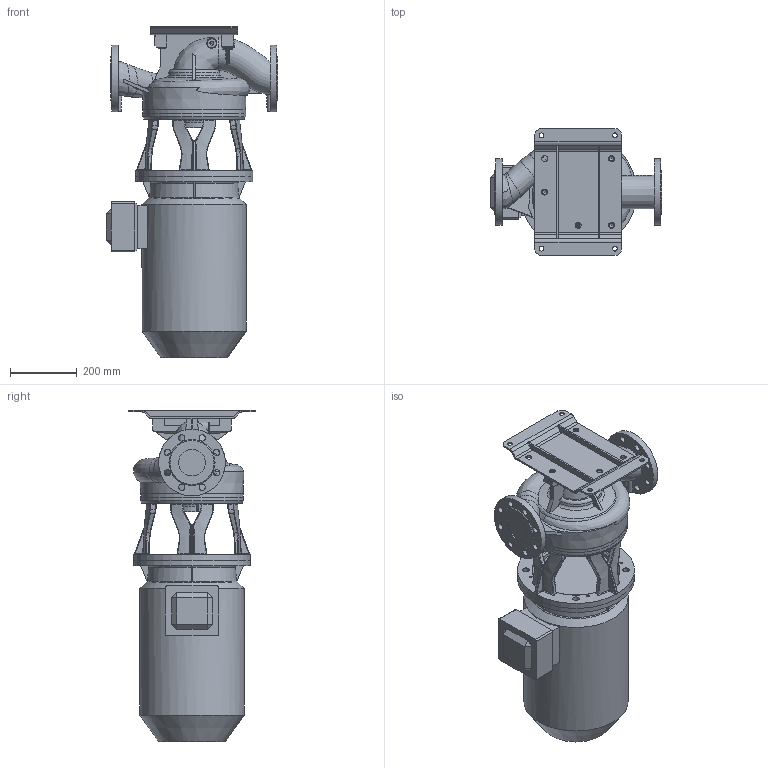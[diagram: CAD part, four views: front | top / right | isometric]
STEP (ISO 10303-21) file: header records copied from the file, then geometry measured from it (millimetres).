
FILE_DESCRIPTION (( 'STEP AP203' ), '1' );
FILE_NAME ('KI80-220_2_15kW_1.STEP', '2026-07-22T05:21:13', ( '' ), ( '' ), 'SwSTEP 2.0', 'SolidWorks 2023', '' );
FILE_SCHEMA (( 'CONFIG_CONTROL_DESIGN' ));
Length unit declared in the file: millimetre
Products named in the file (11): 220610; 220532; KI80-220_2_15kW_1; 211488; 230181; 220531; 220609; 440186_solid; 230180; 230179; 230574
Assembly tree (11 placements, depth 3):
  KI80-220_2_15kW_1
    220610
      220609
    230574
      211488
    220532
      220531
    230181
      230179
      230180  x2
    440186_solid
Bounding box: 513 x 380.18 x 993.45 mm (x, y, z)
Volume: 58424926.1 mm3; surface area: 2162428.7 mm2
Topology: 7 solids, 7 shells, 801 faces, 2067 edges, 1264 vertices
Faces by surface type: bspline 272, plane 235, cylinder 185, cone 56, torus 51, sphere 2
Full cylindrical faces by diameter (mm): 6 x2, 6.8 x4, 10 x4, 10.2 x8, 11.445 x1, 11.8 x3, 14 x19, 14.5 x4, 18 x5, 19 x24, 80 x2, 225 x1, 243 x1, 250 x1, 255 x2, 308 x2, 313 x1, 350 x2
Entity records: 70497 total; most frequent: CARTESIAN_POINT 53033, ORIENTED_EDGE 3654, DIRECTION 2803, EDGE_CURVE 1827, VERTEX_POINT 1186, AXIS2_PLACEMENT_3D 1177, EDGE_LOOP 1059, FACE_OUTER_BOUND 885
